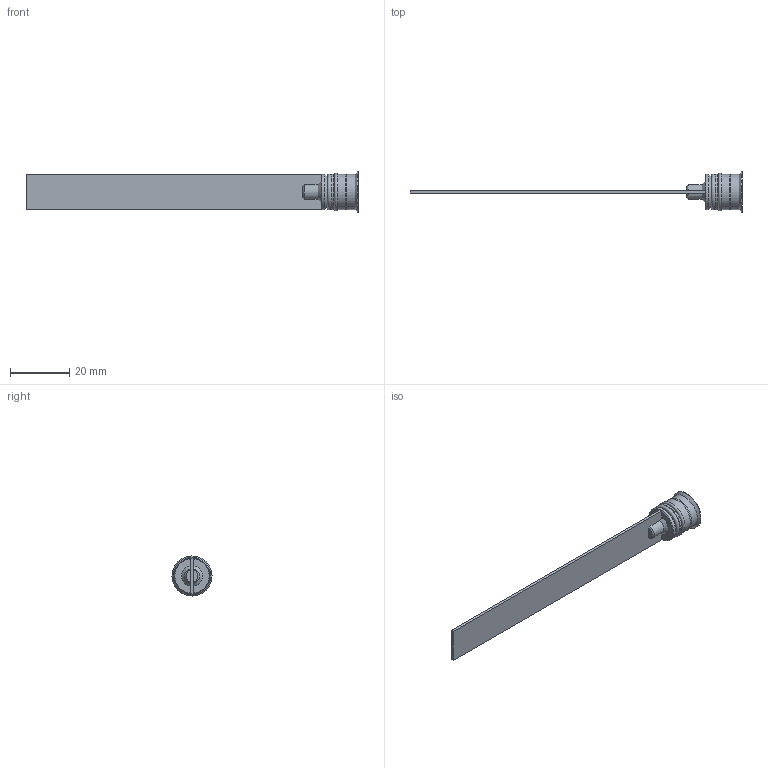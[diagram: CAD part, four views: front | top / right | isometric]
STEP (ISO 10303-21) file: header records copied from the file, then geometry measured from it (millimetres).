
FILE_DESCRIPTION( ( 'STEP AP214' ), '1' );
FILE_NAME( 'p:/temp/worker_239/temp/exporttempdir_2328_736_VAiUQ/format_0/RL-12Fx100.stp', '2021-02-05T19:44:11', ( 'License CC BY-ND 4.0' ), ( 'CADENAS' ), ' ', 'PARTsolutions', ' ' );
FILE_SCHEMA( ( 'AUTOMOTIVE_DESIGN { 1 0 10303 214 1 1 1 1 }' ) );
Length unit declared in the file: millimetre
Products named in the file (1): _RL-12Fx100
Bounding box: 112.5 x 13.6 x 13.6 mm (x, y, z)
Volume: 2589.6 mm3; surface area: 3683.1 mm2
Topology: 1 solids, 1 shells, 52 faces, 127 edges, 80 vertices
Faces by surface type: plane 29, cone 10, cylinder 10, torus 3
Full cylindrical faces by diameter (mm): 6 x1, 12 x4, 13.6 x1
Entity records: 1886 total; most frequent: CARTESIAN_POINT 291, DIRECTION 236, ORIENTED_EDGE 224, EDGE_CURVE 112, AXIS2_PLACEMENT_3D 85, VERTEX_POINT 80, EDGE_LOOP 68, LINE 66
